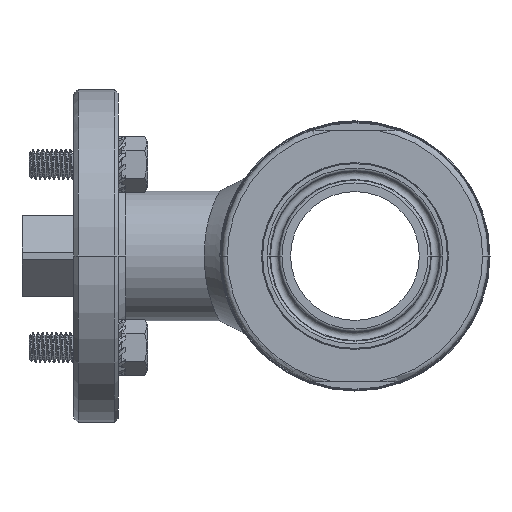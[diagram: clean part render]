
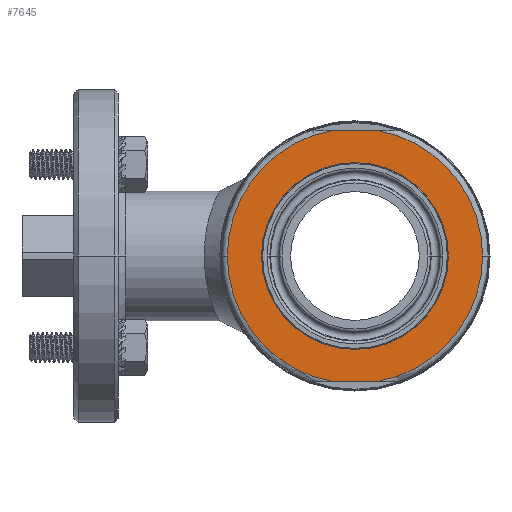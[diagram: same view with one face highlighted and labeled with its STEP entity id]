
A CAD part, left-side view. The second image highlights one B-rep face of the part: STEP entity #7645.
In plain terms, the highlighted planar face has unit normal (-1, 0, 0).
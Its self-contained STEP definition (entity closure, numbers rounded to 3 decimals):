
#6986=DIRECTION('',(0.,1.,0.));
#6987=VECTOR('',#6986,11.705);
#6988=CARTESIAN_POINT('',(-44.,-5.852,-34.));
#6989=LINE('',#6988,#6987);
#6990=DIRECTION('',(0.,1.,0.));
#6991=VECTOR('',#6990,11.705);
#6992=CARTESIAN_POINT('',(-44.,-5.852,34.));
#6993=LINE('',#6992,#6991);
#6994=CARTESIAN_POINT('',(-44.,0.,0.));
#6995=DIRECTION('',(-1.,0.,0.));
#6996=DIRECTION('',(0.,1.,0.));
#6997=AXIS2_PLACEMENT_3D('',#6994,#6995,#6996);
#7014=CARTESIAN_POINT('',(-44.,0.,0.));
#7015=DIRECTION('',(-1.,0.,0.));
#7016=DIRECTION('',(0.,-1.,0.));
#7017=AXIS2_PLACEMENT_3D('',#7014,#7015,#7016);
#7338=CARTESIAN_POINT('',(-44.,0.,0.));
#7339=DIRECTION('',(-1.,0.,0.));
#7340=DIRECTION('',(0.,-0.17,-0.986));
#7341=AXIS2_PLACEMENT_3D('',#7338,#7339,#7340);
#7373=CARTESIAN_POINT('',(-44.,0.,0.));
#7374=DIRECTION('',(-1.,0.,0.));
#7375=DIRECTION('',(0.,-1.,0.));
#7376=AXIS2_PLACEMENT_3D('',#7373,#7374,#7375);
#7411=CARTESIAN_POINT('',(-44.,0.,0.));
#7412=DIRECTION('',(-1.,0.,0.));
#7413=DIRECTION('',(0.,0.17,0.986));
#7414=AXIS2_PLACEMENT_3D('',#7411,#7412,#7413);
#7441=CARTESIAN_POINT('',(-44.,0.,0.));
#7442=DIRECTION('',(-1.,0.,0.));
#7443=DIRECTION('',(0.,1.,0.));
#7444=AXIS2_PLACEMENT_3D('',#7441,#7442,#7443);
#7512=CARTESIAN_POINT('',(-44.,-24.,0.));
#7513=CARTESIAN_POINT('',(-44.,24.,0.));
#7514=VERTEX_POINT('',#7512);
#7515=VERTEX_POINT('',#7513);
#7580=CARTESIAN_POINT('',(-44.,-34.5,0.));
#7581=CARTESIAN_POINT('',(-44.,-5.852,34.));
#7582=VERTEX_POINT('',#7580);
#7583=VERTEX_POINT('',#7581);
#7588=CARTESIAN_POINT('',(-44.,-5.852,-34.));
#7589=VERTEX_POINT('',#7588);
#7592=CARTESIAN_POINT('',(-44.,5.852,34.));
#7593=CARTESIAN_POINT('',(-44.,34.5,0.));
#7594=VERTEX_POINT('',#7592);
#7595=VERTEX_POINT('',#7593);
#7600=CARTESIAN_POINT('',(-44.,5.852,-34.));
#7601=VERTEX_POINT('',#7600);
#7620=CARTESIAN_POINT('',(-44.,0.,0.));
#7621=DIRECTION('',(-1.,0.,0.));
#7622=DIRECTION('',(0.,1.,0.));
#7623=AXIS2_PLACEMENT_3D('',#7620,#7621,#7622);
#7624=PLANE('',#7623);
#7626=ORIENTED_EDGE('',*,*,#7625,.T.);
#7628=ORIENTED_EDGE('',*,*,#7627,.F.);
#7630=ORIENTED_EDGE('',*,*,#7629,.F.);
#7632=ORIENTED_EDGE('',*,*,#7631,.F.);
#7634=ORIENTED_EDGE('',*,*,#7633,.F.);
#7636=ORIENTED_EDGE('',*,*,#7635,.F.);
#7637=EDGE_LOOP('',(#7626,#7628,#7630,#7632,#7634,#7636));
#7638=FACE_OUTER_BOUND('',#7637,.F.);
#7640=ORIENTED_EDGE('',*,*,#7639,.T.);
#7642=ORIENTED_EDGE('',*,*,#7641,.T.);
#7643=EDGE_LOOP('',(#7640,#7642));
#7644=FACE_BOUND('',#7643,.F.);
#7645=ADVANCED_FACE('',(#7638,#7644),#7624,.T.);
#6998=CIRCLE('',#6997,24.);
#7018=CIRCLE('',#7017,24.);
#7342=CIRCLE('',#7341,34.5);
#7377=CIRCLE('',#7376,34.5);
#7415=CIRCLE('',#7414,34.5);
#7445=CIRCLE('',#7444,34.5);
#7625=EDGE_CURVE('',#7589,#7601,#6989,.T.);
#7627=EDGE_CURVE('',#7595,#7601,#7445,.T.);
#7629=EDGE_CURVE('',#7594,#7595,#7415,.T.);
#7631=EDGE_CURVE('',#7583,#7594,#6993,.T.);
#7633=EDGE_CURVE('',#7582,#7583,#7377,.T.);
#7635=EDGE_CURVE('',#7589,#7582,#7342,.T.);
#7639=EDGE_CURVE('',#7515,#7514,#6998,.T.);
#7641=EDGE_CURVE('',#7514,#7515,#7018,.T.);
